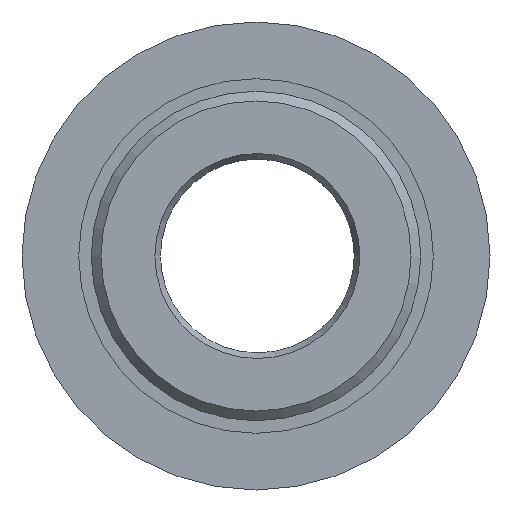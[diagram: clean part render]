
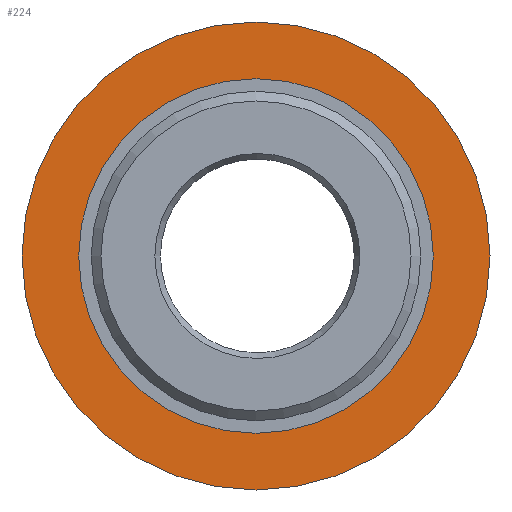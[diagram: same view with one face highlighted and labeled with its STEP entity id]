
A CAD part, left-side view. The second image highlights one B-rep face of the part: STEP entity #224.
In plain terms, the highlighted planar face has unit normal (-1, 0, 0).
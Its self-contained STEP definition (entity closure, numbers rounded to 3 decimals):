
#163 = DIRECTION ( 'NONE',  ( 0., 0., -1. ) ) ;
#164 = DIRECTION ( 'NONE',  ( 1., 0., 0. ) ) ;
#166 = PLANE ( 'NONE',  #1367 ) ;
#168 = CARTESIAN_POINT ( 'NONE',  ( -9.08, 0.138, 0. ) ) ;
#224 = ADVANCED_FACE ( 'NONE', ( #432, #422 ), #166, .F. ) ;
#313 = CIRCLE ( 'NONE', #1159, 24.15 ) ;
#385 = EDGE_LOOP ( 'NONE', ( #1473 ) ) ;
#422 = FACE_BOUND ( 'NONE', #385, .T. ) ;
#432 = FACE_OUTER_BOUND ( 'NONE', #507, .T. ) ;
#507 = EDGE_LOOP ( 'NONE', ( #1472 ) ) ;
#555 = CARTESIAN_POINT ( 'NONE',  ( -9.08, 0.138, 0. ) ) ;
#619 = DIRECTION ( 'NONE',  ( 0., 0., -1. ) ) ;
#674 = CARTESIAN_POINT ( 'NONE',  ( -9.08, 0.138, -24.15 ) ) ;
#683 = DIRECTION ( 'NONE',  ( 1., 0., 0. ) ) ;
#696 = CARTESIAN_POINT ( 'NONE',  ( -9.08, 0.138, -18.3 ) ) ;
#771 = VERTEX_POINT ( 'NONE', #674 ) ;
#971 = DIRECTION ( 'NONE',  ( 1., 0., 0. ) ) ;
#972 = DIRECTION ( 'NONE',  ( 0., 0., -1. ) ) ;
#984 = CARTESIAN_POINT ( 'NONE',  ( -9.08, 0.138, 0. ) ) ;
#1159 = AXIS2_PLACEMENT_3D ( 'NONE', #555, #683, #619 ) ;
#1274 = CIRCLE ( 'NONE', #1321, 18.3 ) ;
#1301 = VERTEX_POINT ( 'NONE', #696 ) ;
#1314 = EDGE_CURVE ( 'NONE', #1301, #1301, #1274, .T. ) ;
#1321 = AXIS2_PLACEMENT_3D ( 'NONE', #984, #971, #972 ) ;
#1367 = AXIS2_PLACEMENT_3D ( 'NONE', #168, #164, #163 ) ;
#1398 = EDGE_CURVE ( 'NONE', #771, #771, #313, .T. ) ;
#1472 = ORIENTED_EDGE ( 'NONE', *, *, #1398, .F. ) ;
#1473 = ORIENTED_EDGE ( 'NONE', *, *, #1314, .T. ) ;
